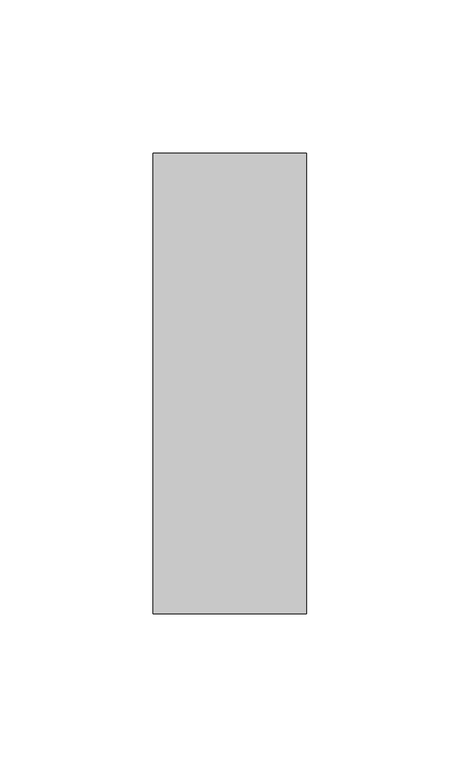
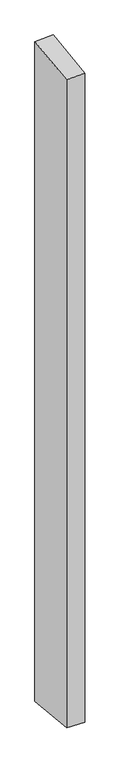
"""IFC4 building model written with IfcOpenShell, lengths in millimetres: member geometry, Прямоугольный импост : 50 x 150 мм."""

from ifc_helpers import new_model, si_unit, origin, place, context, project, spatial, faceted_brep, source, transform, mapped, element, save


def member_d62874fd(model_context):
    return source(origin(), model_context, "Body", "Brep", [
        faceted_brep([(-25.0, 75.0, 8.7740465), (25.0, 75.0, 10.7936306), (25.0, 75.0, -1903.6238578), (-25.0, 75.0, -1902.0358157), (-25.0, -75.0, -10.7936306), (-25.0, -75.0, -1887.7536988), (25.0, -75.0, -8.7740465), (25.0, -75.0, -1889.341741)], [[[0, 1, 2, 3]], [[4, 0, 3, 5]], [[6, 4, 5, 7]], [[1, 6, 7, 2]], [[1, 0, 4, 6]], [[2, 7, 5, 3]]]),
    ])


if __name__ == "__main__":
    model = new_model("IFC4")
    model_context = context("Model", 3, world=origin())
    ifc_project = project(units=[si_unit("LENGTHUNIT", "METRE", prefix="MILLI")], contexts=[model_context])
    site = spatial("IfcSite", under=ifc_project)
    building = spatial("IfcBuilding", under=site)
    placement = place(None, origin())
    member_shape = member_d62874fd(model_context)
    element("IfcMember", 1, ObjectType="Прямоугольный импост : 50 x 150 мм", at=placement, inside=building, context=model_context, shape_type="MappedRepresentation", body=[
        mapped(member_shape, transform((0.0, 0.0, 0.0), x_axis=(1.0, 0.0, 0.0), y_axis=(0.0, 1.0, 0.0), z_axis=(0.0, 0.0, 1.0))),
    ])
    save(model, "model.ifc")
